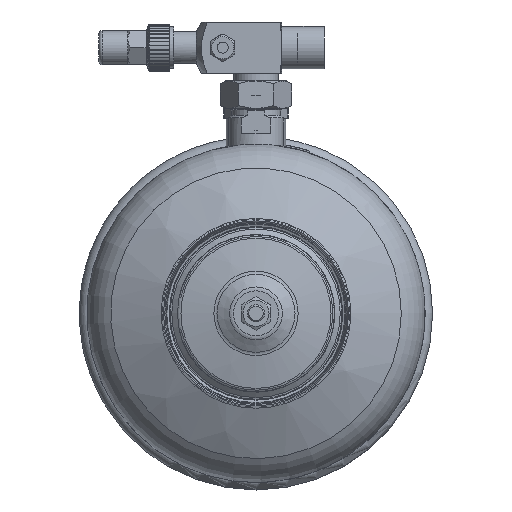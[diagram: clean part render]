
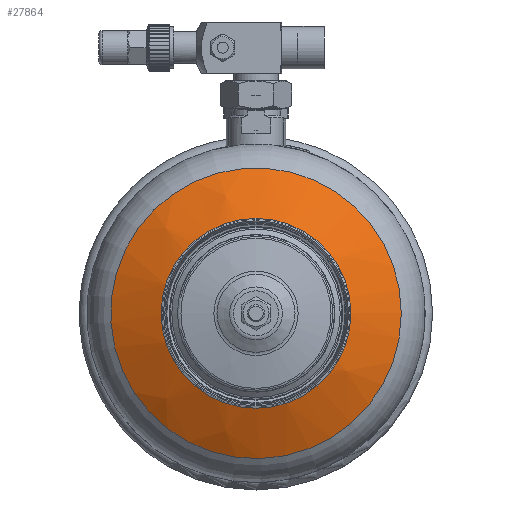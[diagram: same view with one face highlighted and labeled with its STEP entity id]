
A CAD part, front view. The second image highlights one B-rep face of the part: STEP entity #27864.
In plain terms, the highlighted spherical face has radius 159 mm.
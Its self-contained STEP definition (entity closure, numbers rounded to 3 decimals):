
#240=SPHERICAL_SURFACE('',#29282,159.);
#1021=FACE_BOUND('',#8762,.T.);
#7030=FACE_OUTER_BOUND('',#8761,.T.);
#8761=EDGE_LOOP('',(#24810));
#8762=EDGE_LOOP('',(#24811));
#9624=CIRCLE('',#29148,50.299);
#9685=CIRCLE('',#29281,85.047);
#13407=VERTEX_POINT('',#59422);
#13509=VERTEX_POINT('',#59851);
#17254=EDGE_CURVE('',#13407,#13407,#9624,.T.);
#17392=EDGE_CURVE('',#13509,#13509,#9685,.T.);
#24810=ORIENTED_EDGE('',*,*,#17392,.T.);
#24811=ORIENTED_EDGE('',*,*,#17254,.T.);
#27864=ADVANCED_FACE('',(#7030,#1021),#240,.T.);
#29148=AXIS2_PLACEMENT_3D('',#59423,#33273,#33274);
#29281=AXIS2_PLACEMENT_3D('',#59852,#33595,#33596);
#29282=AXIS2_PLACEMENT_3D('',#59875,#33597,#33598);
#33273=DIRECTION('center_axis',(0.,1.,0.));
#33274=DIRECTION('ref_axis',(0.,0.,-1.));
#33595=DIRECTION('center_axis',(0.,-1.,0.));
#33596=DIRECTION('ref_axis',(0.,0.,
-1.));
#33597=DIRECTION('center_axis',(-1.,0.,0.));
#33598=DIRECTION('ref_axis',(0.,0.,
-1.));
#59422=CARTESIAN_POINT('',(0.,-320.334,50.299));
#59423=CARTESIAN_POINT('Origin',(0.,-320.334,
0.));
#59851=CARTESIAN_POINT('',(85.047,-303.843,0.));
#59852=CARTESIAN_POINT('Origin',(0.,-303.843,0.));
#59875=CARTESIAN_POINT('Origin',(0.,-169.5,0.));
